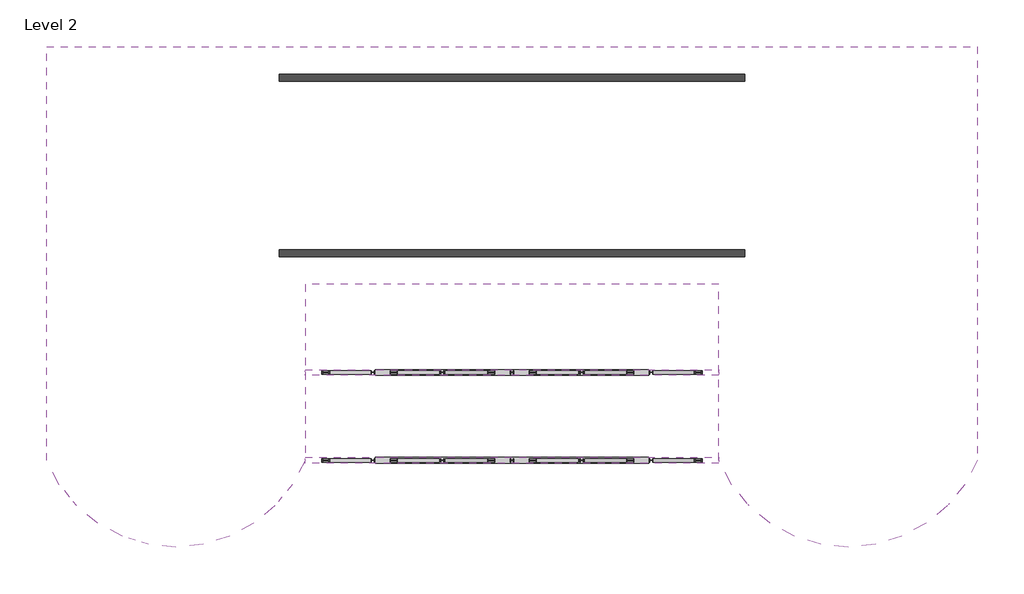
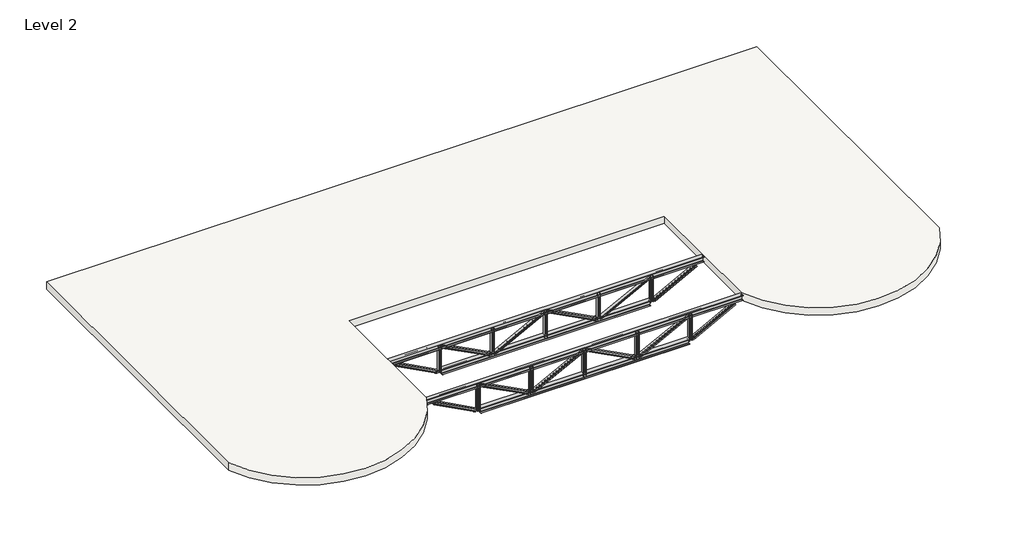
# One storey: 18 beams, 10 columns, 1 slab.
"""IFC4 building model written with IfcOpenShell, lengths in millimetres."""

from ifc_helpers import new_model, si_unit, point, frame, frame_2d, origin, place, context, project, spatial, polyline, circle_curve, trimmed, segment, composite_curve, outline, extrude, transform, mapped, element, save
from components import w_wide_flange_w4x13_e5668264, w_wide_flange_w4x13_6fcfec7e, w_wide_flange_w8x28_d7e5059d, w_wide_flange_w8x28_78879cc6, w_wide_flange_column_w4x13_0bc8af57

model = new_model("IFC4")

# Units and contexts
model_context = context("Model", 3, world=origin())
ifc_project = project(units=[si_unit("LENGTHUNIT", "METRE", prefix="MILLI")], contexts=[model_context])

# Site, building, storey
site = spatial("IfcSite", under=ifc_project)
building = spatial("IfcBuilding", under=site)
storey = spatial("IfcBuildingStorey", under=building, Name="Level 2", Elevation=3048.0)

# Beams
placement = place(None, origin())
element("IfcBeam", 1, ObjectType="Concrete-Rectangular Beam : 8 x 18", at=placement, inside=storey, context=model_context, shape_type="SweptSolid", body=[
    extrude(outline(polyline([(6858.0, 5994.4001945), (6858.0, 6197.6001945), (20573.9989999, 6197.6001945), (20573.9989999, 5994.4001945), (6858.0, 5994.4001945)])), frame((0.0, 0.0, 3962.3999847), z_axis=(0.0, 0.0, 1.0), x_axis=(1.0, 0.0, 0.0)), (0.0, 0.0, 1.0), 457.2),
])
element("IfcBeam", 2, ObjectType="Concrete-Rectangular Beam : 8 x 18", at=placement, inside=storey, context=model_context, shape_type="SweptSolid", body=[
    extrude(outline(polyline([(6858.0, 11176.0002883), (6858.0, 11379.2002883), (20573.9989999, 11379.2002883), (20573.9989999, 11176.0002883), (6858.0, 11176.0002883)])), frame((0.0, 0.0, 3962.3999847), z_axis=(0.0, 0.0, 1.0), x_axis=(1.0, 0.0, 0.0)), (0.0, 0.0, 1.0), 457.2),
])
element("IfcBeam", 3, ObjectType="W-Wide Flange : W4X13", at=placement, inside=storey, context=model_context, shape_type="SweptSolid", body=[
    extrude(outline(composite_curve([segment(polyline([(-44.069, 51.562), (-44.069, 13.843)]), True, "CONTINUOUS"), segment(trimmed(circle_curve(frame_2d((-33.7819999, 13.843)), 10.287), [point((-44.069, 13.843))], [point((-33.7819999, 3.556))], True, "CARTESIAN"), True, "CONTINUOUS"), segment(polyline([(-33.7819999, 3.556), (33.7820001, 3.556)]), True, "CONTINUOUS"), segment(trimmed(circle_curve(frame_2d((33.7820001, 13.843)), 10.287), [point((33.7820001, 3.556))], [point((44.069, 13.843))], True, "CARTESIAN"), True, "CONTINUOUS"), segment(polyline([(44.069, 13.843), (44.069, 51.562), (52.832, 51.562), (52.832, -51.562), (44.069, -51.562), (44.069, -13.843)]), True, "CONTINUOUS"), segment(trimmed(circle_curve(frame_2d((33.7820001, -13.843)), 10.287), [point((44.069, -13.843))], [point((33.7820001, -3.556))], True, "CARTESIAN"), True, "CONTINUOUS"), segment(polyline([(33.7820001, -3.556), (-33.7819999, -3.556)]), True, "CONTINUOUS"), segment(trimmed(circle_curve(frame_2d((-33.7819999, -13.843)), 10.287), [point((-33.7819999, -3.556))], [point((-44.069, -13.843))], True, "CARTESIAN"), True, "CONTINUOUS"), segment(polyline([(-44.069, -13.843), (-44.069, -51.562), (-52.832, -51.562), (-52.832, 51.562), (-44.069, 51.562)]), True, "CONTINUOUS")], self_intersect=False)), frame((11579.2422637, 0.0, 3551.294156), z_axis=(-0.8869139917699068, 0.0, 0.4619345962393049), x_axis=(-0.4619345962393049, 0.0, -0.8869139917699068)), (0.0, 0.0, 1.0), 2109.8477922),
])
element("IfcBeam", 4, ObjectType="W-Wide Flange : W4X13", at=placement, inside=storey, context=model_context, shape_type="SweptSolid", body=[
    extrude(outline(composite_curve([segment(polyline([(-44.069, -51.562), (-52.832, -51.562), (-52.832, 51.562), (-44.069, 51.562), (-44.069, 13.843)]), True, "CONTINUOUS"), segment(trimmed(circle_curve(frame_2d((-33.782, 13.843)), 10.287), [point((-44.069, 13.843))], [point((-33.782, 3.556))], True, "CARTESIAN"), True, "CONTINUOUS"), segment(polyline([(-33.782, 3.556), (33.782, 3.556)]), True, "CONTINUOUS"), segment(trimmed(circle_curve(frame_2d((33.782, 13.843)), 10.287), [point((33.782, 3.556))], [point((44.069, 13.843))], True, "CARTESIAN"), True, "CONTINUOUS"), segment(polyline([(44.069, 13.843), (44.069, 51.562), (52.832, 51.562), (52.832, -51.562), (44.069, -51.562), (44.069, -13.843)]), True, "CONTINUOUS"), segment(trimmed(circle_curve(frame_2d((33.782, -13.843)), 10.287), [point((44.069, -13.843))], [point((33.782, -3.556))], True, "CARTESIAN"), True, "CONTINUOUS"), segment(polyline([(33.782, -3.556), (-33.782, -3.556)]), True, "CONTINUOUS"), segment(trimmed(circle_curve(frame_2d((-33.782, -13.843)), 10.287), [point((-33.782, -3.556))], [point((-44.069, -13.843))], True, "CARTESIAN"), True, "CONTINUOUS"), segment(polyline([(-44.069, -13.843), (-44.069, -51.562)]), True, "CONTINUOUS")], self_intersect=False)), frame((11756.243728, 0.0, 3551.2941292), z_axis=(0.8869140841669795, 0.0, 0.46193441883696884), x_axis=(0.46193441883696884, 0.0, -0.8869140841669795)), (0.0, 0.0, 1.0), 2109.8487184),
])
element("IfcBeam", 5, ObjectType="W-Wide Flange : W4X13", at=placement, inside=storey, context=model_context, shape_type="SweptSolid", body=[
    extrude(outline(composite_curve([segment(polyline([(-44.069, 51.562), (-44.069, 13.843)]), True, "CONTINUOUS"), segment(trimmed(circle_curve(frame_2d((-33.782, 13.843)), 10.287), [point((-44.069, 13.843))], [point((-33.782, 3.556))], True, "CARTESIAN"), True, "CONTINUOUS"), segment(polyline([(-33.782, 3.556), (33.782, 3.556)]), True, "CONTINUOUS"), segment(trimmed(circle_curve(frame_2d((33.782, 13.843)), 10.287), [point((33.782, 3.556))], [point((44.069, 13.843))], True, "CARTESIAN"), True, "CONTINUOUS"), segment(polyline([(44.069, 13.843), (44.069, 51.562), (52.832, 51.562), (52.832, -51.562), (44.069, -51.562), (44.069, -13.843)]), True, "CONTINUOUS"), segment(trimmed(circle_curve(frame_2d((33.782, -13.843)), 10.287), [point((44.069, -13.843))], [point((33.782, -3.556))], True, "CARTESIAN"), True, "CONTINUOUS"), segment(polyline([(33.782, -3.556), (-33.782, -3.556)]), True, "CONTINUOUS"), segment(trimmed(circle_curve(frame_2d((-33.782, -13.843)), 10.287), [point((-33.782, -3.556))], [point((-44.069, -13.843))], True, "CARTESIAN"), True, "CONTINUOUS"), segment(polyline([(-44.069, -13.843), (-44.069, -51.562), (-52.832, -51.562), (-52.832, 51.562), (-44.069, 51.562)]), True, "CONTINUOUS")], self_intersect=False)), frame((15675.7552801, 0.0, 3551.2941024), z_axis=(-0.8869141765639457, 0.0, 0.46193424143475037), x_axis=(-0.46193424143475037, 0.0, -0.8869141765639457)), (0.0, 0.0, 1.0), 2109.8496446),
])
element("IfcBeam", 6, ObjectType="W-Wide Flange : W4X13", at=placement, inside=storey, context=model_context, shape_type="SweptSolid", body=[
    extrude(outline(composite_curve([segment(polyline([(-44.069, -51.562), (-52.832, -51.562), (-52.832, 51.562), (-44.069, 51.562), (-44.069, 13.843)]), True, "CONTINUOUS"), segment(trimmed(circle_curve(frame_2d((-33.7819999, 13.843)), 10.287), [point((-44.069, 13.843))], [point((-33.7819999, 3.556))], True, "CARTESIAN"), True, "CONTINUOUS"), segment(polyline([(-33.7819999, 3.556), (33.7820001, 3.556)]), True, "CONTINUOUS"), segment(trimmed(circle_curve(frame_2d((33.7820001, 13.843)), 10.287), [point((33.7820001, 3.556))], [point((44.069, 13.843))], True, "CARTESIAN"), True, "CONTINUOUS"), segment(polyline([(44.069, 13.843), (44.069, 51.562), (52.832, 51.562), (52.832, -51.562), (44.069, -51.562), (44.069, -13.843)]), True, "CONTINUOUS"), segment(trimmed(circle_curve(frame_2d((33.7820001, -13.843)), 10.287), [point((44.069, -13.843))], [point((33.7820001, -3.556))], True, "CARTESIAN"), True, "CONTINUOUS"), segment(polyline([(33.7820001, -3.556), (-33.7819999, -3.556)]), True, "CONTINUOUS"), segment(trimmed(circle_curve(frame_2d((-33.7819999, -13.843)), 10.287), [point((-33.7819999, -3.556))], [point((-44.069, -13.843))], True, "CARTESIAN"), True, "CONTINUOUS"), segment(polyline([(-44.069, -13.843), (-44.069, -51.562)]), True, "CONTINUOUS")], self_intersect=False)), frame((15852.7567362, 0.0, 3551.294156), z_axis=(0.886913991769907, 0.0, 0.4619345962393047), x_axis=(0.4619345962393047, 0.0, -0.886913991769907)), (0.0, 0.0, 1.0), 2109.8477922),
])
element("IfcBeam", 7, ObjectType="W-Wide Flange : W4X13", at=placement, inside=storey, context=model_context, shape_type="SweptSolid", body=[
    extrude(outline(composite_curve([segment(polyline([(-44.069, 51.562), (-44.069, 13.843)]), True, "CONTINUOUS"), segment(trimmed(circle_curve(frame_2d((-33.7819999, 13.843)), 10.287), [point((-44.069, 13.843))], [point((-33.7819999, 3.556))], True, "CARTESIAN"), True, "CONTINUOUS"), segment(polyline([(-33.7819999, 3.556), (33.7820001, 3.556)]), True, "CONTINUOUS"), segment(trimmed(circle_curve(frame_2d((33.7820001, 13.843)), 10.287), [point((33.7820001, 3.556))], [point((44.069, 13.843))], True, "CARTESIAN"), True, "CONTINUOUS"), segment(polyline([(44.069, 13.843), (44.069, 51.562), (52.832, 51.562), (52.832, -51.562), (44.069, -51.562), (44.069, -13.843)]), True, "CONTINUOUS"), segment(trimmed(circle_curve(frame_2d((33.7820001, -13.843)), 10.287), [point((44.069, -13.843))], [point((33.7820001, -3.556))], True, "CARTESIAN"), True, "CONTINUOUS"), segment(polyline([(33.7820001, -3.556), (-33.7819999, -3.556)]), True, "CONTINUOUS"), segment(trimmed(circle_curve(frame_2d((-33.7819999, -13.843)), 10.287), [point((-33.7819999, -3.556))], [point((-44.069, -13.843))], True, "CARTESIAN"), True, "CONTINUOUS"), segment(polyline([(-44.069, -13.843), (-44.069, -51.562), (-52.832, -51.562), (-52.832, 51.562), (-44.069, 51.562)]), True, "CONTINUOUS")], self_intersect=False)), frame((11579.2422637, 2590.8, 3551.294156), z_axis=(-0.8869139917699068, 0.0, 0.4619345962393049), x_axis=(-0.4619345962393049, 0.0, -0.8869139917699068)), (0.0, 0.0, 1.0), 2109.8477922),
])
element("IfcBeam", 8, ObjectType="W-Wide Flange : W4X13", at=placement, inside=storey, context=model_context, shape_type="SweptSolid", body=[
    extrude(outline(composite_curve([segment(polyline([(-44.069, -51.562), (-52.832, -51.562), (-52.832, 51.562), (-44.069, 51.562), (-44.069, 13.843)]), True, "CONTINUOUS"), segment(trimmed(circle_curve(frame_2d((-33.782, 13.843)), 10.287), [point((-44.069, 13.843))], [point((-33.782, 3.556))], True, "CARTESIAN"), True, "CONTINUOUS"), segment(polyline([(-33.782, 3.556), (33.782, 3.556)]), True, "CONTINUOUS"), segment(trimmed(circle_curve(frame_2d((33.782, 13.843)), 10.287), [point((33.782, 3.556))], [point((44.069, 13.843))], True, "CARTESIAN"), True, "CONTINUOUS"), segment(polyline([(44.069, 13.843), (44.069, 51.562), (52.832, 51.562), (52.832, -51.562), (44.069, -51.562), (44.069, -13.843)]), True, "CONTINUOUS"), segment(trimmed(circle_curve(frame_2d((33.782, -13.843)), 10.287), [point((44.069, -13.843))], [point((33.782, -3.556))], True, "CARTESIAN"), True, "CONTINUOUS"), segment(polyline([(33.782, -3.556), (-33.782, -3.556)]), True, "CONTINUOUS"), segment(trimmed(circle_curve(frame_2d((-33.782, -13.843)), 10.287), [point((-33.782, -3.556))], [point((-44.069, -13.843))], True, "CARTESIAN"), True, "CONTINUOUS"), segment(polyline([(-44.069, -13.843), (-44.069, -51.562)]), True, "CONTINUOUS")], self_intersect=False)), frame((11756.243728, 2590.8, 3551.2941292), z_axis=(0.8869140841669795, 0.0, 0.46193441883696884), x_axis=(0.46193441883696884, 0.0, -0.8869140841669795)), (0.0, 0.0, 1.0), 2109.8487184),
])
element("IfcBeam", 9, ObjectType="W-Wide Flange : W4X13", at=placement, inside=storey, context=model_context, shape_type="SweptSolid", body=[
    extrude(outline(composite_curve([segment(polyline([(-44.069, 51.562), (-44.069, 13.843)]), True, "CONTINUOUS"), segment(trimmed(circle_curve(frame_2d((-33.782, 13.843)), 10.287), [point((-44.069, 13.843))], [point((-33.782, 3.556))], True, "CARTESIAN"), True, "CONTINUOUS"), segment(polyline([(-33.782, 3.556), (33.782, 3.556)]), True, "CONTINUOUS"), segment(trimmed(circle_curve(frame_2d((33.782, 13.843)), 10.287), [point((33.782, 3.556))], [point((44.069, 13.843))], True, "CARTESIAN"), True, "CONTINUOUS"), segment(polyline([(44.069, 13.843), (44.069, 51.562), (52.832, 51.562), (52.832, -51.562), (44.069, -51.562), (44.069, -13.843)]), True, "CONTINUOUS"), segment(trimmed(circle_curve(frame_2d((33.782, -13.843)), 10.287), [point((44.069, -13.843))], [point((33.782, -3.556))], True, "CARTESIAN"), True, "CONTINUOUS"), segment(polyline([(33.782, -3.556), (-33.782, -3.556)]), True, "CONTINUOUS"), segment(trimmed(circle_curve(frame_2d((-33.782, -13.843)), 10.287), [point((-33.782, -3.556))], [point((-44.069, -13.843))], True, "CARTESIAN"), True, "CONTINUOUS"), segment(polyline([(-44.069, -13.843), (-44.069, -51.562), (-52.832, -51.562), (-52.832, 51.562), (-44.069, 51.562)]), True, "CONTINUOUS")], self_intersect=False)), frame((15675.7552801, 2590.8, 3551.2941024), z_axis=(-0.8869141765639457, 0.0, 0.46193424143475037), x_axis=(-0.46193424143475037, 0.0, -0.8869141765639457)), (0.0, 0.0, 1.0), 2109.8496446),
])
element("IfcBeam", 10, ObjectType="W-Wide Flange : W4X13", at=placement, inside=storey, context=model_context, shape_type="SweptSolid", body=[
    extrude(outline(composite_curve([segment(polyline([(-44.069, -51.562), (-52.832, -51.562), (-52.832, 51.562), (-44.069, 51.562), (-44.069, 13.843)]), True, "CONTINUOUS"), segment(trimmed(circle_curve(frame_2d((-33.7819999, 13.843)), 10.287), [point((-44.069, 13.843))], [point((-33.7819999, 3.556))], True, "CARTESIAN"), True, "CONTINUOUS"), segment(polyline([(-33.7819999, 3.556), (33.7820001, 3.556)]), True, "CONTINUOUS"), segment(trimmed(circle_curve(frame_2d((33.7820001, 13.843)), 10.287), [point((33.7820001, 3.556))], [point((44.069, 13.843))], True, "CARTESIAN"), True, "CONTINUOUS"), segment(polyline([(44.069, 13.843), (44.069, 51.562), (52.832, 51.562), (52.832, -51.562), (44.069, -51.562), (44.069, -13.843)]), True, "CONTINUOUS"), segment(trimmed(circle_curve(frame_2d((33.7820001, -13.843)), 10.287), [point((44.069, -13.843))], [point((33.7820001, -3.556))], True, "CARTESIAN"), True, "CONTINUOUS"), segment(polyline([(33.7820001, -3.556), (-33.7819999, -3.556)]), True, "CONTINUOUS"), segment(trimmed(circle_curve(frame_2d((-33.7819999, -13.843)), 10.287), [point((-33.7819999, -3.556))], [point((-44.069, -13.843))], True, "CARTESIAN"), True, "CONTINUOUS"), segment(polyline([(-44.069, -13.843), (-44.069, -51.562)]), True, "CONTINUOUS")], self_intersect=False)), frame((15852.7567362, 2590.8, 3551.294156), z_axis=(0.886913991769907, 0.0, 0.4619345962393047), x_axis=(0.4619345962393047, 0.0, -0.886913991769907)), (0.0, 0.0, 1.0), 2109.8477922),
])
w_wide_flange_w4x13_shape = w_wide_flange_w4x13_e5668264(model_context)
element("IfcBeam", 11, ObjectType="W-Wide Flange : W4X13", at=placement, inside=storey, context=model_context, shape_type="MappedRepresentation", body=[
    mapped(w_wide_flange_w4x13_shape, transform((8619.744, 0.0, 4038.6), x_axis=(0.8822784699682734, 0.0, -0.47072784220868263), y_axis=(0.0, -1.0, 0.0), z_axis=(-0.4707278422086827, 0.0, -0.8822784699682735))),
])
element("IfcBeam", 12, ObjectType="W-Wide Flange : W4X13", at=placement, inside=storey, context=model_context, shape_type="MappedRepresentation", body=[
    mapped(w_wide_flange_w4x13_shape, transform((8619.744, 2590.8, 4038.6), x_axis=(0.8822784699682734, 0.0, -0.47072784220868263), y_axis=(0.0, -1.0, 0.0), z_axis=(-0.4707278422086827, 0.0, -0.8822784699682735))),
])
w_wide_flange_w4x13_2_shape = w_wide_flange_w4x13_6fcfec7e(model_context)
element("IfcBeam", 13, ObjectType="W-Wide Flange : W4X13", at=placement, inside=storey, context=model_context, shape_type="MappedRepresentation", body=[
    mapped(w_wide_flange_w4x13_2_shape, transform((18812.2549999, 0.0, 4038.6), x_axis=(0.8822784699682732, 0.0, 0.470727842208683), y_axis=(0.0, -1.0, 0.0), z_axis=(0.470727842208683, 0.0, -0.8822784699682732))),
])
element("IfcBeam", 14, ObjectType="W-Wide Flange : W4X13", at=placement, inside=storey, context=model_context, shape_type="MappedRepresentation", body=[
    mapped(w_wide_flange_w4x13_2_shape, transform((18812.2549999, 2590.8, 4038.6), x_axis=(0.8822784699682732, 0.0, 0.470727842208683), y_axis=(0.0, -1.0, 0.0), z_axis=(0.470727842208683, 0.0, -0.8822784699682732))),
])
w_wide_flange_w8x28_shape = w_wide_flange_w8x28_d7e5059d(model_context)
element("IfcBeam", 15, ObjectType="W-Wide Flange : W8X28", at=placement, inside=storey, context=model_context, shape_type="MappedRepresentation", body=[
    mapped(w_wide_flange_w8x28_shape, transform((13715.9994999, 0.0, 3505.2), x_axis=(1.0, 0.0, 0.0), y_axis=(0.0, -1.0, 0.0), z_axis=(0.0, 0.0, -1.0))),
])
element("IfcBeam", 16, ObjectType="W-Wide Flange : W8X28", at=placement, inside=storey, context=model_context, shape_type="MappedRepresentation", body=[
    mapped(w_wide_flange_w8x28_shape, transform((13715.9994999, 2590.8, 3505.2), x_axis=(1.0, 0.0, 0.0), y_axis=(0.0, -1.0, 0.0), z_axis=(0.0, 0.0, -1.0))),
])
w_wide_flange_w8x28_2_shape = w_wide_flange_w8x28_78879cc6(model_context)
element("IfcBeam", 17, ObjectType="W-Wide Flange : W8X28", at=placement, inside=storey, context=model_context, shape_type="MappedRepresentation", body=[
    mapped(w_wide_flange_w8x28_2_shape, transform((13715.9994999, 0.0, 4572.0), x_axis=(1.0, 0.0, 0.0), y_axis=(0.0, -1.0, 0.0), z_axis=(0.0, 0.0, -1.0))),
])
element("IfcBeam", 18, ObjectType="W-Wide Flange : W8X28", at=placement, inside=storey, context=model_context, shape_type="MappedRepresentation", body=[
    mapped(w_wide_flange_w8x28_2_shape, transform((13715.9994999, 2590.8, 4572.0), x_axis=(1.0, 0.0, 0.0), y_axis=(0.0, -1.0, 0.0), z_axis=(0.0, 0.0, -1.0))),
])

# Columns
w_wide_flange_column_w4x13_shape = w_wide_flange_column_w4x13_0bc8af57(model_context)
element("IfcColumn", 19, ObjectType="W-Wide Flange-Column : W4X13", at=placement, inside=storey, context=model_context, shape_type="MappedRepresentation", body=[
    mapped(w_wide_flange_column_w4x13_shape, transform((9619.488, 0.0, 0.0), x_axis=(0.0, 1.0, 0.0), y_axis=(-1.0, 0.0, 0.0), z_axis=(0.0, 0.0, 1.0))),
])
element("IfcColumn", 20, ObjectType="W-Wide Flange-Column : W4X13", at=placement, inside=storey, context=model_context, shape_type="MappedRepresentation", body=[
    mapped(w_wide_flange_column_w4x13_shape, transform((11667.743, 0.0, 0.0), x_axis=(0.0, 1.0, 0.0), y_axis=(-1.0, 0.0, 0.0), z_axis=(0.0, 0.0, 1.0))),
])
element("IfcColumn", 21, ObjectType="W-Wide Flange-Column : W4X13", at=placement, inside=storey, context=model_context, shape_type="MappedRepresentation", body=[
    mapped(w_wide_flange_column_w4x13_shape, transform((13715.9989999, 0.0, 0.0), x_axis=(0.0, 1.0, 0.0), y_axis=(-1.0, 0.0, 0.0), z_axis=(0.0, 0.0, 1.0))),
])
element("IfcColumn", 22, ObjectType="W-Wide Flange-Column : W4X13", at=placement, inside=storey, context=model_context, shape_type="MappedRepresentation", body=[
    mapped(w_wide_flange_column_w4x13_shape, transform((15764.2559999, 0.0, 0.0), x_axis=(0.0, 1.0, 0.0), y_axis=(-1.0, 0.0, 0.0), z_axis=(0.0, 0.0, 1.0))),
])
element("IfcColumn", 23, ObjectType="W-Wide Flange-Column : W4X13", at=placement, inside=storey, context=model_context, shape_type="MappedRepresentation", body=[
    mapped(w_wide_flange_column_w4x13_shape, transform((17812.5109999, 0.0, 0.0), x_axis=(0.0, 1.0, 0.0), y_axis=(-1.0, 0.0, 0.0), z_axis=(0.0, 0.0, 1.0))),
])
element("IfcColumn", 24, ObjectType="W-Wide Flange-Column : W4X13", at=placement, inside=storey, context=model_context, shape_type="MappedRepresentation", body=[
    mapped(w_wide_flange_column_w4x13_shape, transform((9619.488, 2590.8, 0.0), x_axis=(0.0, 1.0, 0.0), y_axis=(-1.0, 0.0, 0.0), z_axis=(0.0, 0.0, 1.0))),
])
element("IfcColumn", 25, ObjectType="W-Wide Flange-Column : W4X13", at=placement, inside=storey, context=model_context, shape_type="MappedRepresentation", body=[
    mapped(w_wide_flange_column_w4x13_shape, transform((11667.743, 2590.8, 0.0), x_axis=(0.0, 1.0, 0.0), y_axis=(-1.0, 0.0, 0.0), z_axis=(0.0, 0.0, 1.0))),
])
element("IfcColumn", 26, ObjectType="W-Wide Flange-Column : W4X13", at=placement, inside=storey, context=model_context, shape_type="MappedRepresentation", body=[
    mapped(w_wide_flange_column_w4x13_shape, transform((13715.9989999, 2590.8, 0.0), x_axis=(0.0, 1.0, 0.0), y_axis=(-1.0, 0.0, 0.0), z_axis=(0.0, 0.0, 1.0))),
])
element("IfcColumn", 27, ObjectType="W-Wide Flange-Column : W4X13", at=placement, inside=storey, context=model_context, shape_type="MappedRepresentation", body=[
    mapped(w_wide_flange_column_w4x13_shape, transform((15764.2559999, 2590.8, 0.0), x_axis=(0.0, 1.0, 0.0), y_axis=(-1.0, 0.0, 0.0), z_axis=(0.0, 0.0, 1.0))),
])
element("IfcColumn", 28, ObjectType="W-Wide Flange-Column : W4X13", at=placement, inside=storey, context=model_context, shape_type="MappedRepresentation", body=[
    mapped(w_wide_flange_column_w4x13_shape, transform((17812.5109999, 2590.8, 0.0), x_axis=(0.0, 1.0, 0.0), y_axis=(-1.0, 0.0, 0.0), z_axis=(0.0, 0.0, 1.0))),
])

# Slab
element("IfcSlab", 29, ObjectType="Concrete f'c = 4000 psi - 12in", at=placement, inside=storey, context=model_context, shape_type="SweptSolid", body=[
    extrude(outline(composite_curve([segment(trimmed(circle_curve(frame_2d((23621.9989999, 1554.1825173)), 4114.8005173), [point((27431.9989999, 0.0))], [point((19811.9989999, 0.0))], False, "CARTESIAN"), True, "CONTINUOUS"), segment(polyline([(19811.9989999, 0.0), (19811.9999999, 5181.6), (7620.0, 5181.6), (7620.0, 0.0)]), True, "CONTINUOUS"), segment(trimmed(circle_curve(frame_2d((3810.0, 1554.1825173)), 4114.8005173), [point((7620.0, 0.0))], [point((0.0, 0.0))], False, "CARTESIAN"), True, "CONTINUOUS"), segment(polyline([(0.0, 0.0), (0.0, 12192.0), (27431.9989999, 12192.0), (27431.9989999, 0.0)]), True, "CONTINUOUS")], self_intersect=False)), frame((0.0, 0.0, 4419.6), z_axis=(0.0, 0.0, 1.0), x_axis=(1.0, 0.0, 0.0)), (0.0, 0.0, 1.0), 304.8),
])

save(model, "model.ifc")
